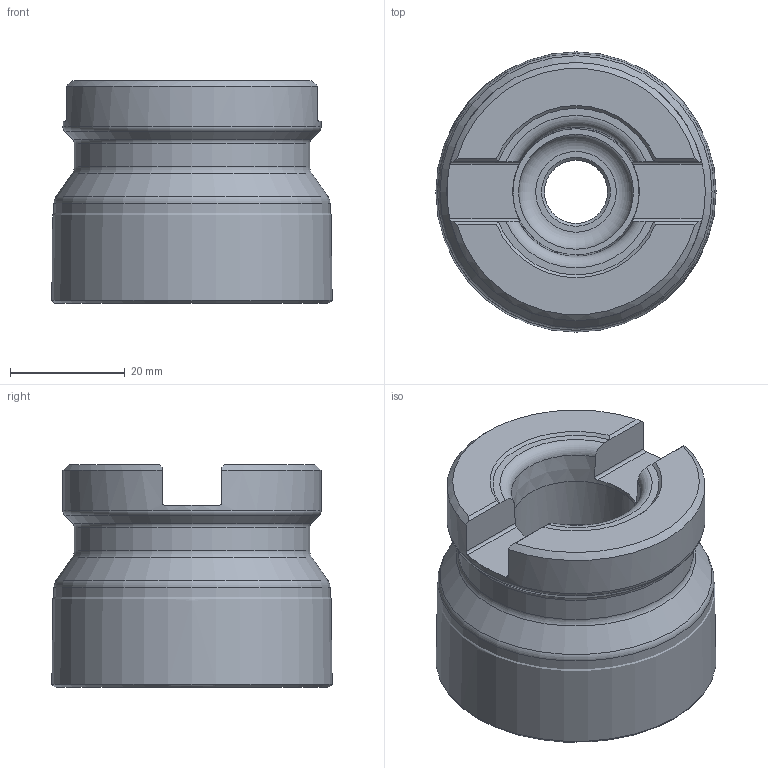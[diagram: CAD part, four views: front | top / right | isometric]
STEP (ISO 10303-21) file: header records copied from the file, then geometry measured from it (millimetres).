
FILE_DESCRIPTION(/* description */ (''),/* implementation_level */ '2;1');
FILE_NAME(/* name */ '637720826367527627.stp',/* time_stamp */ '2021-11-09T19:24:08+08:00',/* author */ (''),/* organization */ (''),/* preprocessor_version */ 'ST-DEVELOPER v16.7',/* originating_system */ 'SIEMENS PLM Software NX 12.0',/* authorisation */ '');
FILE_SCHEMA (('AUTOMOTIVE_DESIGN { 1 0 10303 214 3 1 1 1 }'));
Length unit declared in the file: millimetre
Products named in the file (2): 637720826331240308_LNKT160708PNR-GL; 637720826309624467_EMP09-050-A22-LN16-04C_S
Assembly tree (4 placements, depth 2):
  637720826309624467_EMP09-050-A22-LN16-04C_S
    637720826331240308_LNKT160708PNR-GL  x4
Bounding box: 48.82 x 48.82 x 38.83 mm (x, y, z)
Volume: 63713.3 mm3; surface area: 16885.4 mm2
Topology: 2 solids, 2 shells, 62 faces, 149 edges, 93 vertices
Faces by surface type: plane 20, torus 13, cone 12, cylinder 11, revolution 6
Full cylindrical faces by diameter (mm): 11 x1, 18 x1, 22 x1, 24 x1, 41 x1, 45 x1, 48.122 x1
Entity records: 1942 total; most frequent: CARTESIAN_POINT 618, DIRECTION 254, ORIENTED_EDGE 208, AXIS2_PLACEMENT_3D 112, EDGE_CURVE 104, EDGE_LOOP 98, VERTEX_POINT 80, FACE_BOUND 74
